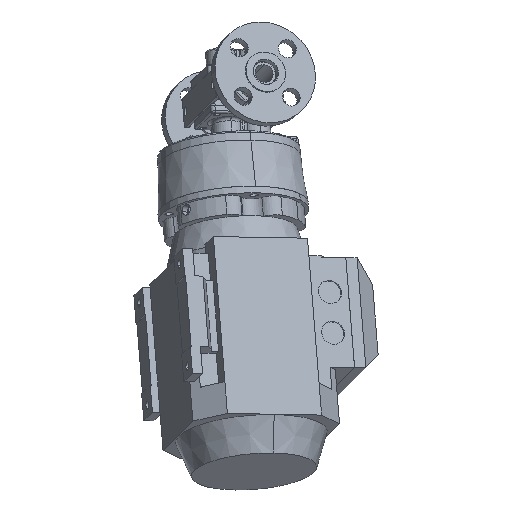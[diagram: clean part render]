
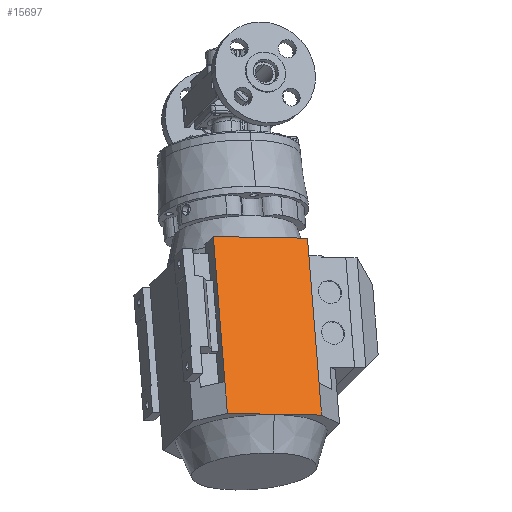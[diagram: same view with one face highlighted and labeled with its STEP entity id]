
A CAD part, front view. The second image highlights one B-rep face of the part: STEP entity #15697.
In plain terms, the highlighted planar face has unit normal (0.301, -0.907, 0.294).
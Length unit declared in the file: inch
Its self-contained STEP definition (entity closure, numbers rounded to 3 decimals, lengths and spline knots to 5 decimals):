
#11 = DIRECTION ( 'NONE',  ( -0.076, 0.284, 0.956 ) ) ;
#106 = VECTOR ( 'NONE', #14961, 39.37008 ) ;
#257 = VECTOR ( 'NONE', #22040, 39.37008 ) ;
#1077 = ORIENTED_EDGE ( 'NONE', *, *, #17886, .F. ) ;
#1110 = ORIENTED_EDGE ( 'NONE', *, *, #18944, .T. ) ;
#2157 = VECTOR ( 'NONE', #18463, 39.37008 ) ;
#2322 = VERTEX_POINT ( 'NONE', #21455 ) ;
#2628 = CARTESIAN_POINT ( 'NONE',  ( -0.85968, -12.78153, -1.46167 ) ) ;
#5528 = CARTESIAN_POINT ( 'NONE',  ( 2.35086, -12.0747, -2.56936 ) ) ;
#5839 = CARTESIAN_POINT ( 'NONE',  ( -1.24393, -11.34835, 3.3543 ) ) ;
#6739 = EDGE_CURVE ( 'NONE', #20622, #19219, #15312, .T. ) ;
#6809 = ORIENTED_EDGE ( 'NONE', *, *, #9385, .T. ) ;
#7500 = LINE ( 'NONE', #18119, #21209 ) ;
#8150 = LINE ( 'NONE', #12490, #22547 ) ;
#8164 = CARTESIAN_POINT ( 'NONE',  ( 2.26681, -11.76119, -1.51586 ) ) ;
#8272 = CARTESIAN_POINT ( 'NONE',  ( 2.35086, -12.0747, -2.56936 ) ) ;
#8581 = CARTESIAN_POINT ( 'NONE',  ( 1.88256, -10.32801, 3.30011 ) ) ;
#8605 = CARTESIAN_POINT ( 'NONE',  ( 1.88256, -10.32801, 3.30011 ) ) ;
#9385 = EDGE_CURVE ( 'NONE', #2322, #18089, #7500, .T. ) ;
#9734 = DIRECTION ( 'NONE',  ( 0.301, -0.907, 0.294 ) ) ;
#11243 = VERTEX_POINT ( 'NONE', #8164 ) ;
#11285 = EDGE_CURVE ( 'NONE', #23001, #19219, #14725, .T. ) ;
#11562 = DIRECTION ( 'NONE',  ( 0.951, 0.31, -0.016 ) ) ;
#11810 = PLANE ( 'NONE',  #26579 ) ;
#11972 = DIRECTION ( 'NONE',  ( 0.076, -0.284, -0.956 ) ) ;
#12300 = CARTESIAN_POINT ( 'NONE',  ( -0.77563, -13.09504, -2.51517 ) ) ;
#12490 = CARTESIAN_POINT ( 'NONE',  ( 2.26681, -11.76119, -1.51586 ) ) ;
#13044 = DIRECTION ( 'NONE',  ( -0.951, -0.31, 0.016 ) ) ;
#14370 = ORIENTED_EDGE ( 'NONE', *, *, #6739, .F. ) ;
#14725 = LINE ( 'NONE', #8581, #19133 ) ;
#14961 = DIRECTION ( 'NONE',  ( -0.076, 0.284, 0.956 ) ) ;
#15312 = LINE ( 'NONE', #21763, #257 ) ;
#15697 = ADVANCED_FACE ( 'NONE', ( #25146 ), #11810, .T. ) ;
#15908 = ORIENTED_EDGE ( 'NONE', *, *, #16156, .T. ) ;
#16156 = EDGE_CURVE ( 'NONE', #11243, #23001, #8150, .T. ) ;
#16279 = ORIENTED_EDGE ( 'NONE', *, *, #11285, .T. ) ;
#16846 = EDGE_LOOP ( 'NONE', ( #14370, #1077, #6809, #1110, #15908, #16279 ) ) ;
#17351 = LINE ( 'NONE', #8272, #106 ) ;
#17886 = EDGE_CURVE ( 'NONE', #2322, #20622, #18596, .T. ) ;
#18089 = VERTEX_POINT ( 'NONE', #22371 ) ;
#18119 = CARTESIAN_POINT ( 'NONE',  ( -0.77563, -13.09504, -2.51517 ) ) ;
#18463 = DIRECTION ( 'NONE',  ( -0.076, 0.284, 0.956 ) ) ;
#18596 = LINE ( 'NONE', #12300, #2157 ) ;
#18944 = EDGE_CURVE ( 'NONE', #18089, #11243, #17351, .T. ) ;
#19133 = VECTOR ( 'NONE', #13044, 39.37008 ) ;
#19219 = VERTEX_POINT ( 'NONE', #5839 ) ;
#20622 = VERTEX_POINT ( 'NONE', #2628 ) ;
#21209 = VECTOR ( 'NONE', #11562, 39.37008 ) ;
#21455 = CARTESIAN_POINT ( 'NONE',  ( -0.77563, -13.09504, -2.51517 ) ) ;
#21763 = CARTESIAN_POINT ( 'NONE',  ( -0.85968, -12.78153, -1.46167 ) ) ;
#22040 = DIRECTION ( 'NONE',  ( -0.076, 0.284, 0.956 ) ) ;
#22371 = CARTESIAN_POINT ( 'NONE',  ( 2.35086, -12.0747, -2.56936 ) ) ;
#22547 = VECTOR ( 'NONE', #11, 39.37008 ) ;
#23001 = VERTEX_POINT ( 'NONE', #8605 ) ;
#25146 = FACE_OUTER_BOUND ( 'NONE', #16846, .T. ) ;
#26579 = AXIS2_PLACEMENT_3D ( 'NONE', #5528, #9734, #11972 ) ;
